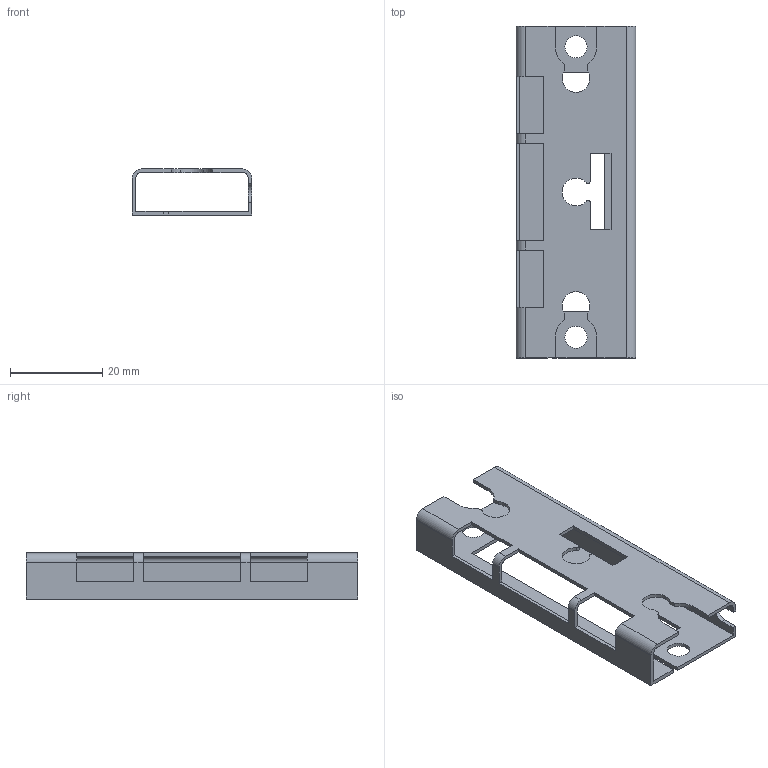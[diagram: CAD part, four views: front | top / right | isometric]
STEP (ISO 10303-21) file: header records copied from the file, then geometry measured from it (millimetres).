
FILE_DESCRIPTION (( 'STEP AP203' ), '1' );
FILE_NAME ('MS-NA3-3.STEP', '2005-10-27T00:17:33', ( '' ), ( '' ), 'SwSTEP 2.0', 'SolidWorks 2004073', '' );
FILE_SCHEMA (( 'CONFIG_CONTROL_DESIGN' ));
Length unit declared in the file: millimetre
Products named in the file (1): MS-NA3-3
Bounding box: 26 x 72 x 10 mm (x, y, z)
Volume: 2649.1 mm3; surface area: 7108.9 mm2
Topology: 1 solids, 1 shells, 80 faces, 252 edges, 168 vertices
Faces by surface type: plane 51, cylinder 29
Entity records: 2895 total; most frequent: ORIENTED_EDGE 504, CARTESIAN_POINT 501, DIRECTION 472, EDGE_CURVE 252, VECTOR 194, LINE 194, VERTEX_POINT 168, AXIS2_PLACEMENT_3D 139
